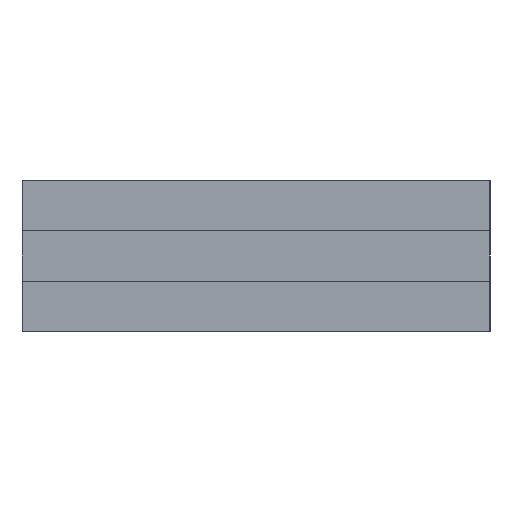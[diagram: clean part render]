
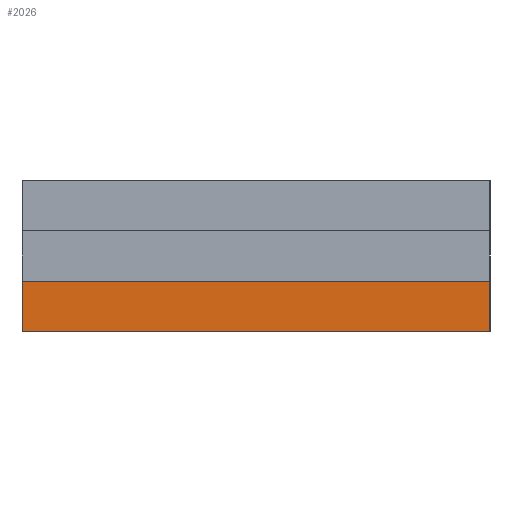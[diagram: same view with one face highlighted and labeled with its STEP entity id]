
A CAD part, left-side view. The second image highlights one B-rep face of the part: STEP entity #2026.
In plain terms, the highlighted planar face has unit normal (-1, 0, 0).
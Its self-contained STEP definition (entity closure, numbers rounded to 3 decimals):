
#2026 = ADVANCED_FACE('',(#2027),#2041,.F.);
#2027 = FACE_BOUND('',#2028,.F.);
#2028 = EDGE_LOOP('',(#2029,#2064,#2092,#2120));
#2029 = ORIENTED_EDGE('',*,*,#2030,.F.);
#2030 = EDGE_CURVE('',#2031,#2033,#2035,.T.);
#2031 = VERTEX_POINT('',#2032);
#2032 = CARTESIAN_POINT('',(-13.925,-23.599,56.75));
#2033 = VERTEX_POINT('',#2034);
#2034 = CARTESIAN_POINT('',(-13.925,-23.599,59.23));
#2035 = SURFACE_CURVE('',#2036,(#2040,#2052),.PCURVE_S1.);
#2036 = LINE('',#2037,#2038);
#2037 = CARTESIAN_POINT('',(-13.925,-23.599,56.75));
#2038 = VECTOR('',#2039,1.);
#2039 = DIRECTION('',(0.,0.,1.));
#2040 = PCURVE('',#2041,#2046);
#2041 = PLANE('',#2042);
#2042 = AXIS2_PLACEMENT_3D('',#2043,#2044,#2045);
#2043 = CARTESIAN_POINT('',(-13.925,-23.599,56.75));
#2044 = DIRECTION('',(1.,0.,0.));
#2045 = DIRECTION('',(0.,0.,1.));
#2046 = DEFINITIONAL_REPRESENTATION('',(#2047),#2051);
#2047 = LINE('',#2048,#2049);
#2048 = CARTESIAN_POINT('',(0.,0.));
#2049 = VECTOR('',#2050,1.);
#2050 = DIRECTION('',(1.,0.));
#2051 = ( GEOMETRIC_REPRESENTATION_CONTEXT(2) 
PARAMETRIC_REPRESENTATION_CONTEXT() REPRESENTATION_CONTEXT('2D SPACE',''
  ) );
#2052 = PCURVE('',#2053,#2058);
#2053 = PLANE('',#2054);
#2054 = AXIS2_PLACEMENT_3D('',#2055,#2056,#2057);
#2055 = CARTESIAN_POINT('',(-13.925,-23.599,56.75));
#2056 = DIRECTION('',(0.,1.,0.));
#2057 = DIRECTION('',(0.,0.,1.));
#2058 = DEFINITIONAL_REPRESENTATION('',(#2059),#2063);
#2059 = LINE('',#2060,#2061);
#2060 = CARTESIAN_POINT('',(0.,0.));
#2061 = VECTOR('',#2062,1.);
#2062 = DIRECTION('',(1.,0.));
#2063 = ( GEOMETRIC_REPRESENTATION_CONTEXT(2) 
PARAMETRIC_REPRESENTATION_CONTEXT() REPRESENTATION_CONTEXT('2D SPACE',''
  ) );
#2064 = ORIENTED_EDGE('',*,*,#2065,.T.);
#2065 = EDGE_CURVE('',#2031,#2066,#2068,.T.);
#2066 = VERTEX_POINT('',#2067);
#2067 = CARTESIAN_POINT('',(-13.925,-0.691,56.75));
#2068 = SURFACE_CURVE('',#2069,(#2073,#2080),.PCURVE_S1.);
#2069 = LINE('',#2070,#2071);
#2070 = CARTESIAN_POINT('',(-13.925,-23.599,56.75));
#2071 = VECTOR('',#2072,1.);
#2072 = DIRECTION('',(0.,1.,0.));
#2073 = PCURVE('',#2041,#2074);
#2074 = DEFINITIONAL_REPRESENTATION('',(#2075),#2079);
#2075 = LINE('',#2076,#2077);
#2076 = CARTESIAN_POINT('',(0.,0.));
#2077 = VECTOR('',#2078,1.);
#2078 = DIRECTION('',(0.,-1.));
#2079 = ( GEOMETRIC_REPRESENTATION_CONTEXT(2) 
PARAMETRIC_REPRESENTATION_CONTEXT() REPRESENTATION_CONTEXT('2D SPACE',''
  ) );
#2080 = PCURVE('',#2081,#2086);
#2081 = PLANE('',#2082);
#2082 = AXIS2_PLACEMENT_3D('',#2083,#2084,#2085);
#2083 = CARTESIAN_POINT('',(-13.925,-23.599,56.75));
#2084 = DIRECTION('',(0.,0.,1.));
#2085 = DIRECTION('',(1.,0.,0.));
#2086 = DEFINITIONAL_REPRESENTATION('',(#2087),#2091);
#2087 = LINE('',#2088,#2089);
#2088 = CARTESIAN_POINT('',(0.,0.));
#2089 = VECTOR('',#2090,1.);
#2090 = DIRECTION('',(0.,1.));
#2091 = ( GEOMETRIC_REPRESENTATION_CONTEXT(2) 
PARAMETRIC_REPRESENTATION_CONTEXT() REPRESENTATION_CONTEXT('2D SPACE',''
  ) );
#2092 = ORIENTED_EDGE('',*,*,#2093,.T.);
#2093 = EDGE_CURVE('',#2066,#2094,#2096,.T.);
#2094 = VERTEX_POINT('',#2095);
#2095 = CARTESIAN_POINT('',(-13.925,-0.691,59.23));
#2096 = SURFACE_CURVE('',#2097,(#2101,#2108),.PCURVE_S1.);
#2097 = LINE('',#2098,#2099);
#2098 = CARTESIAN_POINT('',(-13.925,-0.691,56.75));
#2099 = VECTOR('',#2100,1.);
#2100 = DIRECTION('',(0.,0.,1.));
#2101 = PCURVE('',#2041,#2102);
#2102 = DEFINITIONAL_REPRESENTATION('',(#2103),#2107);
#2103 = LINE('',#2104,#2105);
#2104 = CARTESIAN_POINT('',(0.,-22.909));
#2105 = VECTOR('',#2106,1.);
#2106 = DIRECTION('',(1.,0.));
#2107 = ( GEOMETRIC_REPRESENTATION_CONTEXT(2) 
PARAMETRIC_REPRESENTATION_CONTEXT() REPRESENTATION_CONTEXT('2D SPACE',''
  ) );
#2108 = PCURVE('',#2109,#2114);
#2109 = PLANE('',#2110);
#2110 = AXIS2_PLACEMENT_3D('',#2111,#2112,#2113);
#2111 = CARTESIAN_POINT('',(-13.925,-0.691,56.75));
#2112 = DIRECTION('',(0.,1.,0.));
#2113 = DIRECTION('',(0.,0.,1.));
#2114 = DEFINITIONAL_REPRESENTATION('',(#2115),#2119);
#2115 = LINE('',#2116,#2117);
#2116 = CARTESIAN_POINT('',(0.,0.));
#2117 = VECTOR('',#2118,1.);
#2118 = DIRECTION('',(1.,0.));
#2119 = ( GEOMETRIC_REPRESENTATION_CONTEXT(2) 
PARAMETRIC_REPRESENTATION_CONTEXT() REPRESENTATION_CONTEXT('2D SPACE',''
  ) );
#2120 = ORIENTED_EDGE('',*,*,#2121,.F.);
#2121 = EDGE_CURVE('',#2033,#2094,#2122,.T.);
#2122 = SURFACE_CURVE('',#2123,(#2127,#2134),.PCURVE_S1.);
#2123 = LINE('',#2124,#2125);
#2124 = CARTESIAN_POINT('',(-13.925,-23.599,59.23));
#2125 = VECTOR('',#2126,1.);
#2126 = DIRECTION('',(0.,1.,0.));
#2127 = PCURVE('',#2041,#2128);
#2128 = DEFINITIONAL_REPRESENTATION('',(#2129),#2133);
#2129 = LINE('',#2130,#2131);
#2130 = CARTESIAN_POINT('',(2.48,0.));
#2131 = VECTOR('',#2132,1.);
#2132 = DIRECTION('',(0.,-1.));
#2133 = ( GEOMETRIC_REPRESENTATION_CONTEXT(2) 
PARAMETRIC_REPRESENTATION_CONTEXT() REPRESENTATION_CONTEXT('2D SPACE',''
  ) );
#2134 = PCURVE('',#2135,#2140);
#2135 = PLANE('',#2136);
#2136 = AXIS2_PLACEMENT_3D('',#2137,#2138,#2139);
#2137 = CARTESIAN_POINT('',(-13.925,-23.599,59.23));
#2138 = DIRECTION('',(0.,0.,1.));
#2139 = DIRECTION('',(1.,0.,0.));
#2140 = DEFINITIONAL_REPRESENTATION('',(#2141),#2145);
#2141 = LINE('',#2142,#2143);
#2142 = CARTESIAN_POINT('',(0.,0.));
#2143 = VECTOR('',#2144,1.);
#2144 = DIRECTION('',(0.,1.));
#2145 = ( GEOMETRIC_REPRESENTATION_CONTEXT(2) 
PARAMETRIC_REPRESENTATION_CONTEXT() REPRESENTATION_CONTEXT('2D SPACE',''
  ) );
